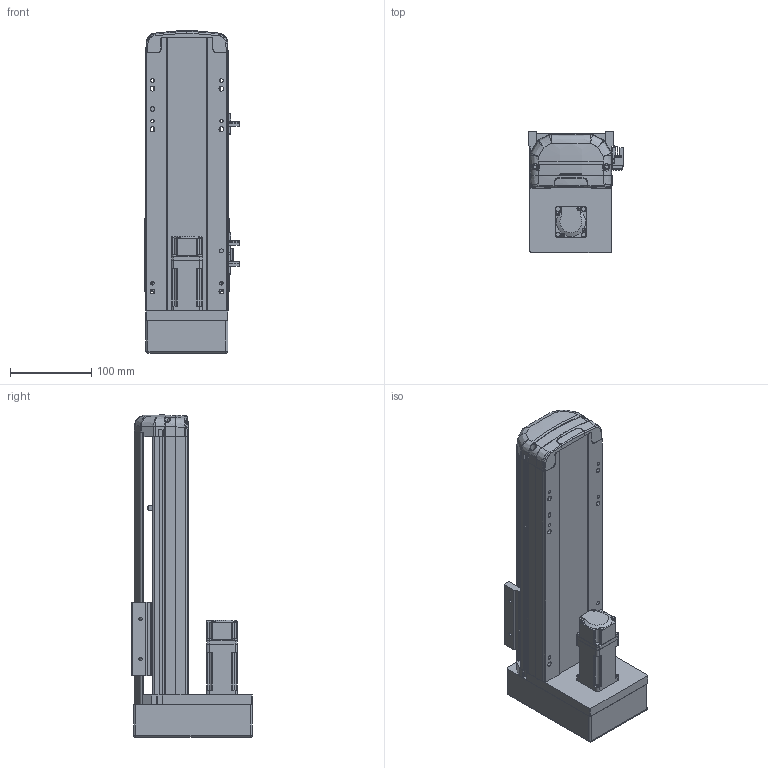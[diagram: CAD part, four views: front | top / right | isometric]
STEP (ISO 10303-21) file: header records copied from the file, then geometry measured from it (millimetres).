
FILE_DESCRIPTION (( 'STEP AP214' ), '1' );
FILE_NAME ('RTH10-XX-150-M-M10-C4.STEP', '2025-10-25T05:42:46', ( 'Microsoft' ), ( 'Microsoft' ), 'SwSTEP 2.0', 'SolidWorks 2018', '' );
FILE_SCHEMA (( 'AUTOMOTIVE_DESIGN' ));
Length unit declared in the file: millimetre
Products named in the file (10): N_RTH12-M-007P-奻裔^RTH10-XX-100-M-M10-C4; N_RTH12-GY-001P^RTH10-XX-100-M-M10-C4; N_P10^RTH10-XX-100-M-M10-C4; N_RTH12-GY-004-賑釱^RTH10-XX-100-M-M10-C4; N_RTH12-M-008-萇儂啣^RTH10-XX-100-M-M10-C4; N_RTH12-M-011P-臏倰第菁釱^RTH10-XX-100-M-M10-C4; N_RTH12-M-018-裔赽^RTH10-XX-100-M-M10-C4; N_OMRON EE-SX672 传感器^RTH10-XX-100-M-M10-C4; RTH10-XX-150-M-M10-C4; N_RTH13-L-012覜茼え俋离^RTH10-XX-100-M-M10-C4
Assembly tree (11 placements, depth 2):
  RTH10-XX-150-M-M10-C4
    N_RTH12-M-011P-臏倰第菁釱^RTH10-XX-100-M-M10-C4
    N_RTH13-L-012覜茼え俋离^RTH10-XX-100-M-M10-C4
    N_OMRON EE-SX672 传感器^RTH10-XX-100-M-M10-C4  x3
    N_P10^RTH10-XX-100-M-M10-C4
    N_RTH12-M-007P-奻裔^RTH10-XX-100-M-M10-C4
    N_RTH12-M-008-萇儂啣^RTH10-XX-100-M-M10-C4
    N_RTH12-M-018-裔赽^RTH10-XX-100-M-M10-C4
    N_RTH12-GY-004-賑釱^RTH10-XX-100-M-M10-C4
    N_RTH12-GY-001P^RTH10-XX-100-M-M10-C4
Bounding box: 116.5 x 149 x 397.31 mm (x, y, z)
Volume: 2291066.9 mm3; surface area: 358580.5 mm2
Topology: 10 solids, 12 shells, 1893 faces, 5263 edges, 3451 vertices
Faces by surface type: plane 947, bspline 472, cylinder 439, cone 29, sphere 4, torus 2
Entity records: 56543 total; most frequent: CARTESIAN_POINT 22727, ORIENTED_EDGE 7598, DIRECTION 5781, EDGE_CURVE 3805, VERTEX_POINT 2495, VECTOR 2019, LINE 2019, AXIS2_PLACEMENT_3D 1881
